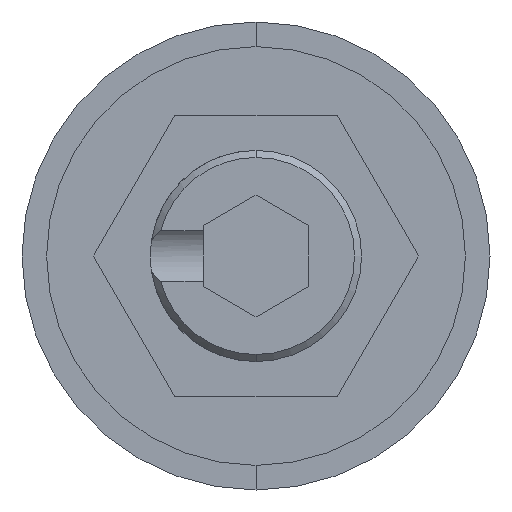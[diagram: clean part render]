
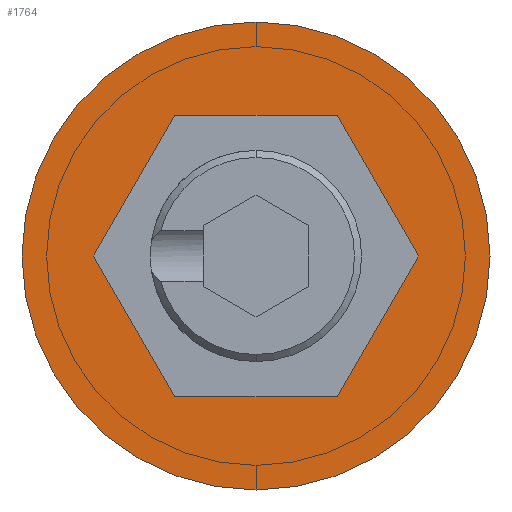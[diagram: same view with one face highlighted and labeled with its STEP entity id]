
A CAD part, front view. The second image highlights one B-rep face of the part: STEP entity #1764.
In plain terms, the highlighted planar face has unit normal (0, -1, 0).
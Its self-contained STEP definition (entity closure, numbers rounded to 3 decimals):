
#11 = CARTESIAN_POINT ( 'NONE',  ( 2.309, 0., -4. ) ) ;
#54 = ORIENTED_EDGE ( 'NONE', *, *, #452, .F. ) ;
#58 = CARTESIAN_POINT ( 'NONE',  ( 4.619, 0., 0. ) ) ;
#74 = DIRECTION ( 'NONE',  ( -0.5, 0., 0.866 ) ) ;
#162 = CARTESIAN_POINT ( 'NONE',  ( 0., 0., 6.65 ) ) ;
#219 = VERTEX_POINT ( 'NONE', #1984 ) ;
#293 = FACE_BOUND ( 'NONE', #1111, .T. ) ;
#318 = VERTEX_POINT ( 'NONE', #393 ) ;
#334 = DIRECTION ( 'NONE',  ( 0., 0., -1. ) ) ;
#384 = EDGE_LOOP ( 'NONE', ( #954, #1949 ) ) ;
#393 = CARTESIAN_POINT ( 'NONE',  ( -4.619, 0., 0. ) ) ;
#409 = EDGE_CURVE ( 'NONE', #219, #1905, #1982, .T. ) ;
#410 = EDGE_CURVE ( 'NONE', #1567, #1996, #2094, .T. ) ;
#452 = EDGE_CURVE ( 'NONE', #318, #1809, #1762, .T. ) ;
#480 = CARTESIAN_POINT ( 'NONE',  ( -2.309, 0., -4. ) ) ;
#491 = VECTOR ( 'NONE', #1601, 1000. ) ;
#508 = LINE ( 'NONE', #58, #556 ) ;
#556 = VECTOR ( 'NONE', #74, 1000. ) ;
#565 = DIRECTION ( 'NONE',  ( 1., 0., 0. ) ) ;
#598 = AXIS2_PLACEMENT_3D ( 'NONE', #1682, #1163, #334 ) ;
#877 = VECTOR ( 'NONE', #565, 1000. ) ;
#907 = LINE ( 'NONE', #1579, #491 ) ;
#954 = ORIENTED_EDGE ( 'NONE', *, *, #1512, .T. ) ;
#962 = EDGE_CURVE ( 'NONE', #1265, #219, #508, .T. ) ;
#988 = DIRECTION ( 'NONE',  ( 0.5, 0., -0.866 ) ) ;
#997 = CARTESIAN_POINT ( 'NONE',  ( 2.309, 0., -4. ) ) ;
#1008 = DIRECTION ( 'NONE',  ( 0.5, 0., 0.866 ) ) ;
#1018 = ORIENTED_EDGE ( 'NONE', *, *, #409, .F. ) ;
#1037 = CARTESIAN_POINT ( 'NONE',  ( -4.619, 0., 0. ) ) ;
#1065 = VECTOR ( 'NONE', #1008, 1000. ) ;
#1069 = CARTESIAN_POINT ( 'NONE',  ( 4.619, 0., 0. ) ) ;
#1111 = EDGE_LOOP ( 'NONE', ( #2075, #54, #2009, #1018, #1989, #2021 ) ) ;
#1163 = DIRECTION ( 'NONE',  ( 0., -1., 0. ) ) ;
#1258 = EDGE_CURVE ( 'NONE', #1325, #1265, #1277, .T. ) ;
#1265 = VERTEX_POINT ( 'NONE', #1069 ) ;
#1277 = LINE ( 'NONE', #997, #1065 ) ;
#1325 = VERTEX_POINT ( 'NONE', #11 ) ;
#1384 = AXIS2_PLACEMENT_3D ( 'NONE', #1906, #1770, #1736 ) ;
#1396 = CARTESIAN_POINT ( 'NONE',  ( -2.309, 0., 4. ) ) ;
#1404 = LINE ( 'NONE', #480, #877 ) ;
#1469 = EDGE_CURVE ( 'NONE', #1905, #318, #907, .T. ) ;
#1512 = EDGE_CURVE ( 'NONE', #1996, #1567, #1641, .T. ) ;
#1567 = VERTEX_POINT ( 'NONE', #162 ) ;
#1579 = CARTESIAN_POINT ( 'NONE',  ( -2.309, 0., 4. ) ) ;
#1601 = DIRECTION ( 'NONE',  ( -0.5, 0., -0.866 ) ) ;
#1614 = FACE_OUTER_BOUND ( 'NONE', #384, .T. ) ;
#1641 = CIRCLE ( 'NONE', #1647, 6.65 ) ;
#1647 = AXIS2_PLACEMENT_3D ( 'NONE', #1893, #2102, #2059 ) ;
#1670 = PLANE ( 'NONE',  #598 ) ;
#1682 = CARTESIAN_POINT ( 'NONE',  ( 0., 0., 0. ) ) ;
#1691 = CARTESIAN_POINT ( 'NONE',  ( 2.309, 0., 4. ) ) ;
#1702 = EDGE_CURVE ( 'NONE', #1809, #1325, #1404, .T. ) ;
#1714 = CARTESIAN_POINT ( 'NONE',  ( 0., 0., -6.65 ) ) ;
#1736 = DIRECTION ( 'NONE',  ( 0., 0., -1. ) ) ;
#1762 = LINE ( 'NONE', #1037, #1805 ) ;
#1764 = ADVANCED_FACE ( 'NONE', ( #293, #1614 ), #1670, .T. ) ;
#1770 = DIRECTION ( 'NONE',  ( 0., -1., 0. ) ) ;
#1774 = CARTESIAN_POINT ( 'NONE',  ( -2.309, 0., -4. ) ) ;
#1805 = VECTOR ( 'NONE', #988, 1000. ) ;
#1809 = VERTEX_POINT ( 'NONE', #1774 ) ;
#1893 = CARTESIAN_POINT ( 'NONE',  ( 0., 0., 0. ) ) ;
#1905 = VERTEX_POINT ( 'NONE', #1396 ) ;
#1906 = CARTESIAN_POINT ( 'NONE',  ( 0., 0., 0. ) ) ;
#1942 = VECTOR ( 'NONE', #2026, 1000. ) ;
#1949 = ORIENTED_EDGE ( 'NONE', *, *, #410, .T. ) ;
#1982 = LINE ( 'NONE', #1691, #1942 ) ;
#1984 = CARTESIAN_POINT ( 'NONE',  ( 2.309, 0., 4. ) ) ;
#1989 = ORIENTED_EDGE ( 'NONE', *, *, #962, .F. ) ;
#1996 = VERTEX_POINT ( 'NONE', #1714 ) ;
#2009 = ORIENTED_EDGE ( 'NONE', *, *, #1469, .F. ) ;
#2021 = ORIENTED_EDGE ( 'NONE', *, *, #1258, .F. ) ;
#2026 = DIRECTION ( 'NONE',  ( -1., 0., 0. ) ) ;
#2059 = DIRECTION ( 'NONE',  ( 0., 0., -1. ) ) ;
#2075 = ORIENTED_EDGE ( 'NONE', *, *, #1702, .F. ) ;
#2094 = CIRCLE ( 'NONE', #1384, 6.65 ) ;
#2102 = DIRECTION ( 'NONE',  ( 0., -1., 0. ) ) ;
